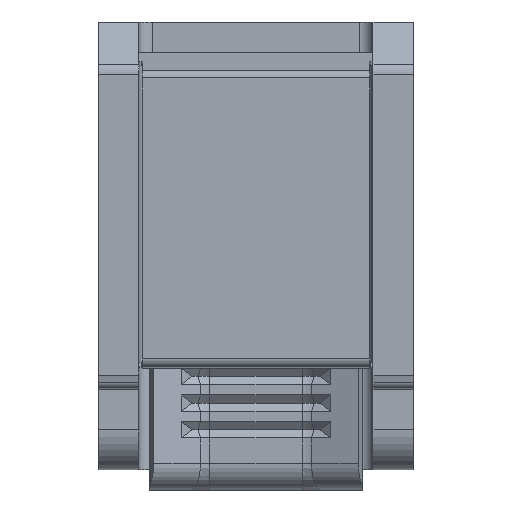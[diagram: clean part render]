
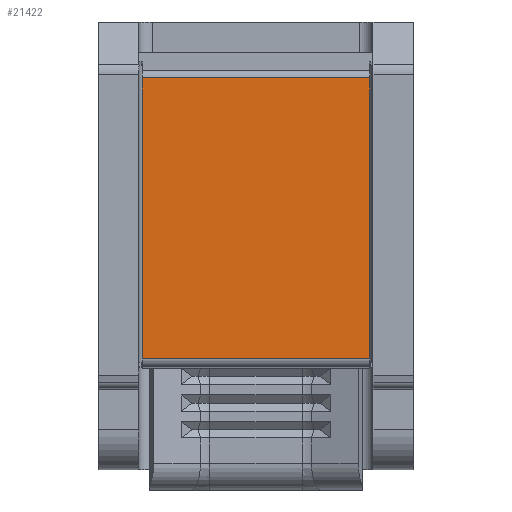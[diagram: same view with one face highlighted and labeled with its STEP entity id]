
A CAD part, front view. The second image highlights one B-rep face of the part: STEP entity #21422.
In plain terms, the highlighted planar face has unit normal (0, -1, 0.014).
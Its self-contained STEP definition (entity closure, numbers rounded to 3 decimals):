
#757 = DIRECTION ( 'NONE',  ( 0., 1., -0.014 ) ) ;
#932 = AXIS2_PLACEMENT_3D ( 'NONE', #13142, #757, #13218 ) ;
#1220 = CARTESIAN_POINT ( 'NONE',  ( 9.148, -1.855, 17.564 ) ) ;
#1317 = CARTESIAN_POINT ( 'NONE',  ( -7.852, -1.852, 17.774 ) ) ;
#2234 = ORIENTED_EDGE ( 'NONE', *, *, #17473, .F. ) ;
#2835 = DIRECTION ( 'NONE',  ( 0., 0.014, 1. ) ) ;
#3178 = VERTEX_POINT ( 'NONE', #19211 ) ;
#5140 = VECTOR ( 'NONE', #12911, 1000. ) ;
#7058 = LINE ( 'NONE', #17211, #20951 ) ;
#7305 = ORIENTED_EDGE ( 'NONE', *, *, #15330, .T. ) ;
#7326 = EDGE_CURVE ( 'NONE', #17148, #15855, #10506, .T. ) ;
#7414 = CARTESIAN_POINT ( 'NONE',  ( 12.148, -2.158, -3.424 ) ) ;
#7882 = ORIENTED_EDGE ( 'NONE', *, *, #23017, .F. ) ;
#7984 = ORIENTED_EDGE ( 'NONE', *, *, #7326, .T. ) ;
#9172 = LINE ( 'NONE', #1317, #17794 ) ;
#10506 = LINE ( 'NONE', #13511, #16063 ) ;
#11347 = PLANE ( 'NONE',  #932 ) ;
#12911 = DIRECTION ( 'NONE',  ( -1., 0., 0. ) ) ;
#13142 = CARTESIAN_POINT ( 'NONE',  ( 12.148, -1.852, 17.774 ) ) ;
#13218 = DIRECTION ( 'NONE',  ( 1., 0., 0. ) ) ;
#13511 = CARTESIAN_POINT ( 'NONE',  ( 9.148, -1.852, 17.774 ) ) ;
#14378 = CARTESIAN_POINT ( 'NONE',  ( 9.148, -2.158, -3.424 ) ) ;
#15330 = EDGE_CURVE ( 'NONE', #16465, #3178, #9172, .T. ) ;
#15372 = DIRECTION ( 'NONE',  ( 1., 0., 0. ) ) ;
#15729 = CARTESIAN_POINT ( 'NONE',  ( -7.852, -1.855, 17.564 ) ) ;
#15855 = VERTEX_POINT ( 'NONE', #1220 ) ;
#16063 = VECTOR ( 'NONE', #2835, 1000. ) ;
#16465 = VERTEX_POINT ( 'NONE', #15729 ) ;
#17059 = LINE ( 'NONE', #7414, #5140 ) ;
#17148 = VERTEX_POINT ( 'NONE', #14378 ) ;
#17211 = CARTESIAN_POINT ( 'NONE',  ( 12.148, -1.855, 17.564 ) ) ;
#17473 = EDGE_CURVE ( 'NONE', #16465, #15855, #7058, .T. ) ;
#17794 = VECTOR ( 'NONE', #19444, 1000. ) ;
#18339 = FACE_OUTER_BOUND ( 'NONE', #18538, .T. ) ;
#18538 = EDGE_LOOP ( 'NONE', ( #2234, #7305, #7882, #7984 ) ) ;
#19211 = CARTESIAN_POINT ( 'NONE',  ( -7.852, -2.158, -3.424 ) ) ;
#19444 = DIRECTION ( 'NONE',  ( 0., -0.014, -1. ) ) ;
#20951 = VECTOR ( 'NONE', #15372, 1000. ) ;
#21422 = ADVANCED_FACE ( 'NONE', ( #18339 ), #11347, .F. ) ;
#23017 = EDGE_CURVE ( 'NONE', #17148, #3178, #17059, .T. ) ;
